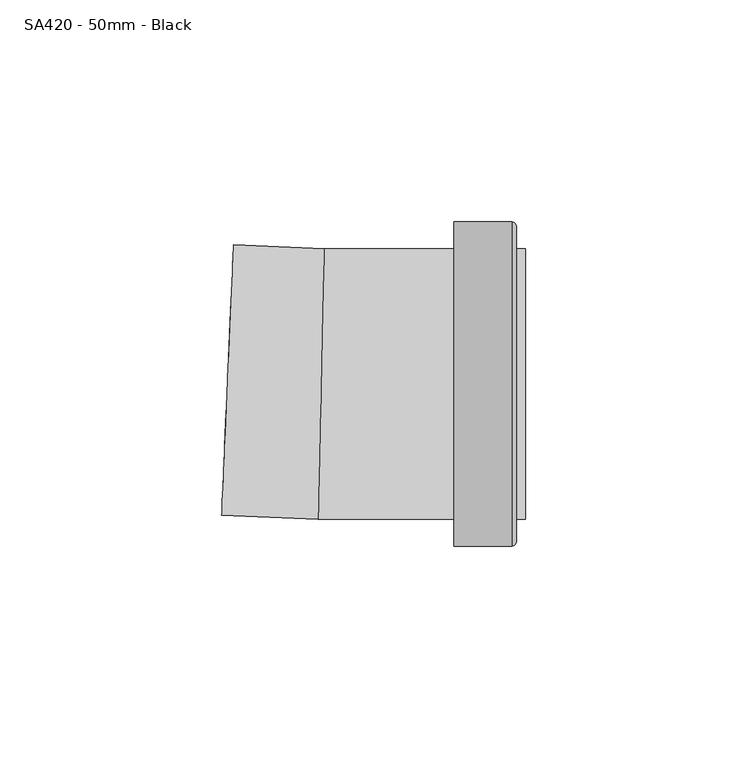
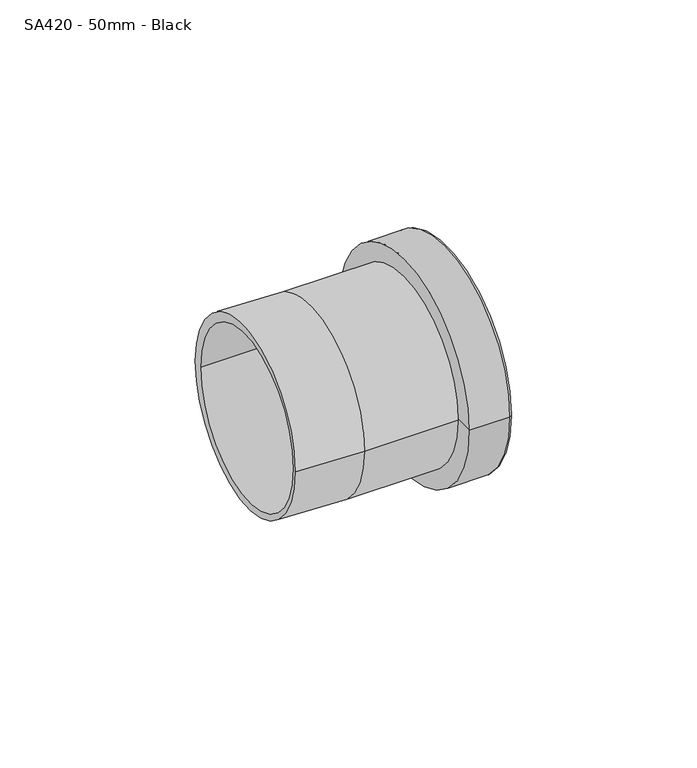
"""IFC4 building model written with IfcOpenShell, lengths in millimetres: pipe fitting geometry, MarleyPlumbingAndDrainage_PipeFitting_BossConnector : SA420 - 50mm - Black."""

from ifc_helpers import new_model, si_unit, point, frame, origin, place, context, project, spatial, polyline, circle_curve, ellipse_curve, trimmed, source, transform, mapped, element, save
from ifc_brep_helpers import plane_surface, cylinder_surface, revolved_surface, advanced_brep


def sa420_50mm_black_6babe31f(model_context):
    return source(origin(), model_context, "Body", "AdvancedBrep", [
        advanced_brep(
        [(-151.2799651, -36.5, 0.0), (-151.2799651, 36.5, 0.0), (-138.3021579, 36.5, 0.0), (-138.3021579, -36.5, 0.0), (-151.2799651, -28.0, 0.0), (-151.2799651, 28.0, 0.0), (-137.2799651, -28.0, 0.0), (-137.2799651, 28.0, 0.0), (-137.2799651, -35.4778072, 0.0), (-137.2799651, 35.4778072, 0.0)],
        [
            (0, 1, circle_curve(frame((-151.2799651, 0.0, 0.0), z_axis=(1.0, 0.0, 0.0), x_axis=(0.0, 1.0, 0.0)), 36.5)),
            (1, 2),
            (2, 3, circle_curve(frame((-138.3021579, 0.0, 0.0), z_axis=(-1.0, 0.0, 0.0), x_axis=(0.0, 1.0, 0.0)), 36.5)),
            (3, 0),
            (1, 0, circle_curve(frame((-151.2799651, 0.0, 0.0), z_axis=(1.0, 0.0, 0.0), x_axis=(0.0, 1.0, 0.0)), 36.5)),
            (3, 2, circle_curve(frame((-138.3021579, 0.0, 0.0), z_axis=(-1.0, 0.0, 0.0), x_axis=(0.0, 1.0, 0.0)), 36.5)),
            (0, 4),
            (4, 5, circle_curve(frame((-151.2799651, 0.0, 0.0), z_axis=(1.0, 0.0, 0.0), x_axis=(0.0, 1.0, 0.0)), 28.0)),
            (5, 1),
            (5, 4, circle_curve(frame((-151.2799651, 0.0, 0.0), z_axis=(1.0, 0.0, 0.0), x_axis=(0.0, 1.0, 0.0)), 28.0)),
            (4, 6),
            (6, 7, circle_curve(frame((-137.2799651, 0.0, 0.0), z_axis=(1.0, 0.0, 0.0), x_axis=(0.0, 1.0, 0.0)), 28.0)),
            (7, 5),
            (7, 6, circle_curve(frame((-137.2799651, 0.0, 0.0), z_axis=(1.0, 0.0, 0.0), x_axis=(0.0, 1.0, 0.0)), 28.0)),
            (6, 8),
            (8, 9, circle_curve(frame((-137.2799651, 0.0, 0.0), z_axis=(1.0, 0.0, 0.0), x_axis=(0.0, 1.0, 0.0)), 35.4778072)),
            (9, 7),
            (9, 8, circle_curve(frame((-137.2799651, 0.0, 0.0), z_axis=(1.0, 0.0, 0.0), x_axis=(0.0, 1.0, 0.0)), 35.4778072)),
            (2, 9, circle_curve(frame((-138.3021579, 35.4778072, 0.0), z_axis=(0.0, 0.0, -1.0), x_axis=(1.0, 0.0, 0.0)), 1.0221928)),
            (8, 3, circle_curve(frame((-138.3021579, -35.4778072, 0.0), z_axis=(0.0, 0.0, -1.0), x_axis=(1.0, 0.0, 0.0)), 1.0221928)),
        ],
        [
            cylinder_surface(frame((1990.625, 0.0, 0.0), z_axis=(-1.0, 0.0, 0.0), x_axis=(0.0, 1.0, 0.0)), 36.5),
            plane_surface(frame((-151.2799651, 0.0, 0.0), z_axis=(-1.0, 0.0, 0.0), x_axis=(0.0, 1.0, 0.0))),
            revolved_surface(polyline([(-151.27996510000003, 28.0, 0.0), (-137.27996510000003, 28.0, 0.0)]), (1990.625, 0.0, 0.0), (-1.0, 0.0, 0.0)),
            plane_surface(frame((-137.2799651, 0.0, 0.0), z_axis=(1.0, 0.0, 0.0), x_axis=(0.0, 1.0, 0.0))),
            revolved_surface(trimmed(ellipse_curve(frame((-138.3021579, 35.4778072, 0.0), z_axis=(0.0, 0.0, 1.0), x_axis=(1.0, 0.0, 0.0)), 1.0221928, 1.0221928), [point((-137.2799651, 35.4778072, 0.0))], [point((-138.3021579, 36.5, 0.0))], True, "CARTESIAN"), (1990.625, 0.0, 0.0), (-1.0, 0.0, 0.0)),
        ],
        [
            (0, [[1, 2, 3, 4]]),
            (0, [[-2, 5, -4, 6]]),
            (1, [[-1, 7, 8, 9]]),
            (1, [[-5, -9, 10, -7]]),
            (2, [[-8, 11, 12, 13]]),
            (2, [[-10, -13, 14, -11]]),
            (3, [[-12, 15, 16, 17]]),
            (3, [[-14, -17, 18, -15]]),
            (4, [[-3, 19, -16, 20]]),
            (4, [[-6, -20, -18, -19]]),
        ],
    ),
        advanced_brep(
        [(-135.2799651, 30.5, 0.0), (-135.2799651, -30.5, 0.0), (-135.2799651, 28.0, 0.0), (-135.2799651, -28.0, 0.0), (-181.9454775, -30.5, 0.0), (-180.6144528, 30.5, 0.0), (-201.0066805, 31.3903439, 0.0), (-203.6674632, -29.5515976, 0.0), (-203.5997189, -28.0, 0.0), (-201.1547061, 28.0, 0.0)],
        [
            (0, 1, circle_curve(frame((-135.2799651, 0.0, 0.0), z_axis=(1.0, 0.0, 0.0), x_axis=(0.0, -1.0, 0.0)), 30.5)),
            (1, 0, circle_curve(frame((-135.2799651, 0.0, 0.0), z_axis=(1.0, 0.0, 0.0), x_axis=(0.0, -1.0, 0.0)), 30.5)),
            (2, 3, circle_curve(frame((-135.2799651, 0.0, 0.0), z_axis=(-1.0, 0.0, 0.0), x_axis=(0.0, 1.0, 0.0)), 28.0)),
            (3, 2, circle_curve(frame((-135.2799651, 0.0, 0.0), z_axis=(-1.0, 0.0, 0.0), x_axis=(0.0, 1.0, 0.0)), 28.0)),
            (4, 5, ellipse_curve(frame((-181.2799651, 0.0, 0.0), z_axis=(-0.999762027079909, 0.02181488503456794, 0.0), x_axis=(-0.02181488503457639, -0.9997620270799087, 0.0)), 30.5072599, 30.5)),
            (5, 6),
            (6, 7, circle_curve(frame((-202.3370718, 0.9193731, 0.0), z_axis=(0.9990482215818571, -0.04361938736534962, 0.0), x_axis=(-0.04361938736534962, -0.9990482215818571, 0.0)), 30.5)),
            (7, 4),
            (5, 4, ellipse_curve(frame((-181.2799651, 0.0, 0.0), z_axis=(-0.999762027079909, 0.02181488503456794, 0.0), x_axis=(-0.02181488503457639, -0.9997620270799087, 0.0)), 30.5072599, 30.5)),
            (7, 6, circle_curve(frame((-202.3370718, 0.9193731, 0.0), z_axis=(0.9990482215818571, -0.04361938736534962, 0.0), x_axis=(-0.04361938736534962, -0.9990482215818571, 0.0)), 30.5)),
            (8, 9, ellipse_curve(frame((-202.3772125, 0.0, 0.0), z_axis=(0.9990482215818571, -0.04361938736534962, 0.0), x_axis=(-0.04361938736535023, -0.9990482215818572, 0.0)), 28.0266752, 28.0)),
            (9, 8, ellipse_curve(frame((-202.3772125, 0.0, 0.0), z_axis=(0.9990482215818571, -0.04361938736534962, 0.0), x_axis=(-0.04361938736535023, -0.9990482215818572, 0.0)), 28.0266752, 28.0)),
            (8, 3),
            (2, 9),
            (0, 5),
            (4, 1),
        ],
        [
            plane_surface(frame((-135.2799651, 0.0, 0.0), z_axis=(1.0, 0.0, 0.0), x_axis=(0.0, 0.0, 1.0))),
            cylinder_surface(frame((-181.2799651, 0.0, 0.0), z_axis=(0.9990482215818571, -0.04361938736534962, 0.0), x_axis=(-0.04361938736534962, -0.9990482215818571, 0.0)), 30.5),
            plane_surface(frame((-202.3370718, 0.9193731, 0.0), z_axis=(-0.9990482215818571, 0.04361938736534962, 0.0), x_axis=(0.0, 0.0, 1.0))),
            revolved_surface(polyline([(-203.59971890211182, 28.0, 0.0), (-135.27996510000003, 28.0, 0.0)]), (2002.0, 0.0, 0.0), (-1.0, 0.0, 0.0)),
            cylinder_surface(frame((-135.2799651, 0.0, 0.0), z_axis=(1.0, 0.0, 0.0), x_axis=(0.0, -1.0, 0.0)), 30.5),
        ],
        [
            (0, [[1, 2], [3, 4]]),
            (1, [[5, 6, 7, 8]]),
            (1, [[-6, 9, -8, 10]]),
            (2, [[-7, -10], [11, 12]]),
            (3, [[13, -3, 14, -11]]),
            (3, [[-13, -12, -14, -4]]),
            (4, [[-1, 15, -5, 16]]),
            (4, [[-2, -16, -9, -15]]),
        ],
    ),
    ])


if __name__ == "__main__":
    model = new_model("IFC4")
    model_context = context("Model", 3, world=origin())
    ifc_project = project(units=[si_unit("LENGTHUNIT", "METRE", prefix="MILLI")], contexts=[model_context])
    site = spatial("IfcSite", under=ifc_project)
    building = spatial("IfcBuilding", under=site)
    placement = place(None, origin())
    sa420_50mm_black_shape = sa420_50mm_black_6babe31f(model_context)
    element("IfcPipeFitting", 1, ObjectType="MarleyPlumbingAndDrainage_PipeFitting_BossConnector : SA420 - 50mm - Black", at=placement, inside=building, context=model_context, shape_type="MappedRepresentation", body=[
        mapped(sa420_50mm_black_shape, transform((0.0, 0.0, 0.0), x_axis=(1.0, 0.0, 0.0), y_axis=(0.0, 1.0, 0.0), z_axis=(0.0, 0.0, 1.0))),
    ])
    save(model, "model.ifc")
